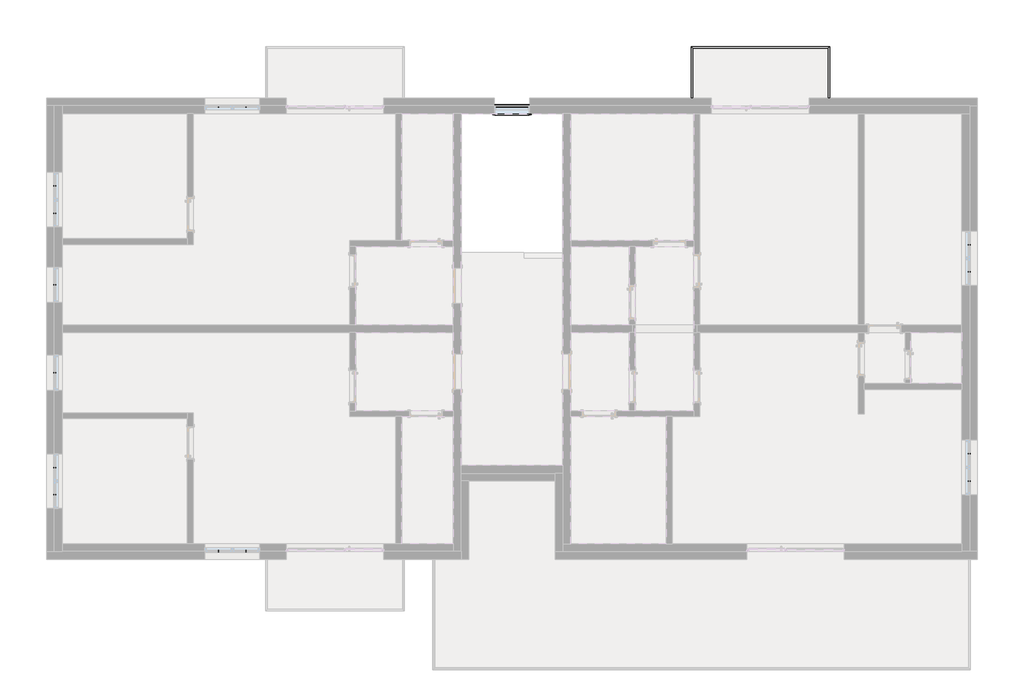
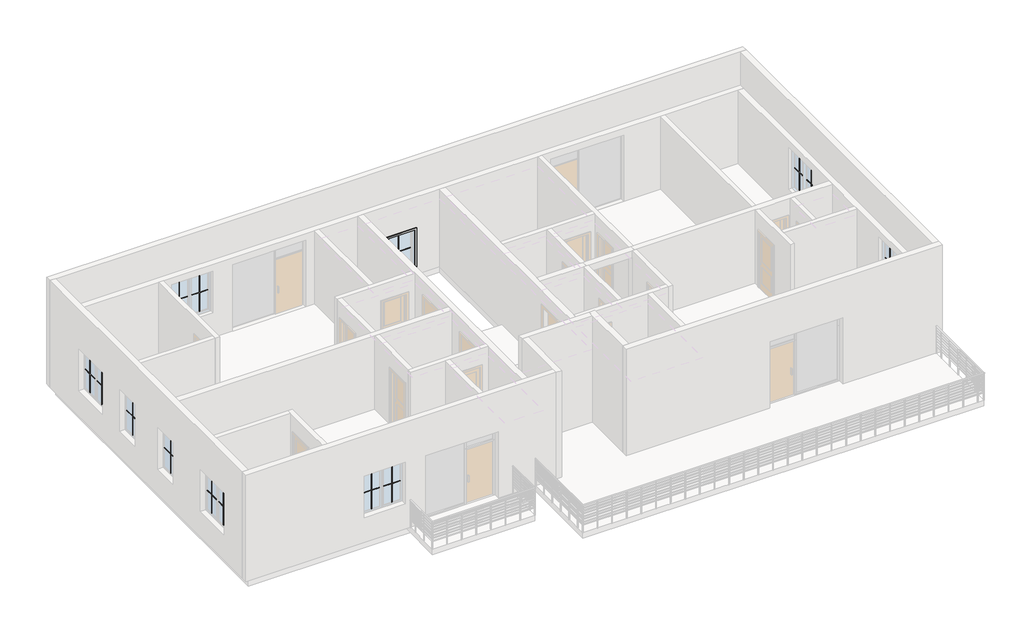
# One storey, part 6 of 6: 17 proxies, 1 railing.
"""IFC4 building model written with IfcOpenShell, lengths in millimetres."""

from ifc_helpers import new_model, si_unit, point, frame, frame_2d, origin, place, context, project, spatial, circle_curve, ellipse_curve, trimmed, segment, composite_curve, outline, extrude, transform, mapped, element, save
from ifc_brep_helpers import plane_surface, cylinder_surface, advanced_brep
from components import generic_models_71f8651e, generic_models_53b518fb, generic_models_94c03e9d, generic_models_07578a54, generic_models_08f28809, generic_models_afe3c14d

model = new_model("IFC4")

# Units and contexts
model_context = context("Model", 3, world=origin())
ifc_project = project(units=[si_unit("LENGTHUNIT", "METRE", prefix="MILLI")], contexts=[model_context])

# Site, building, storey
site = spatial("IfcSite", under=ifc_project)
building = spatial("IfcBuilding", under=site)
storey = spatial("IfcBuildingStorey", under=building, Name="Podlaží 2", Elevation=3000.0)

# Proxies
placement = place(None, origin())
generic_models_shape = generic_models_71f8651e(model_context)
element("IfcBuildingElementProxy", 1, Name="M_Vzor mezilehlého svislého vlysu_2x2 : M_Vzor mezilehlého svislého vlysu_2x2", ObjectType="M_Vzor mezilehlého svislého vlysu_2x2 : M_Vzor mezilehlého svislého vlysu_2x2", at=placement, inside=storey, context=model_context, shape_type="MappedRepresentation", body=[
    mapped(generic_models_shape, transform((4698.4125, 2309.525, 3969.85), x_axis=(-1.0, 0.0, 0.0), y_axis=(0.0, -1.0, 0.0), z_axis=(0.0, 0.0, 1.0))),
])
element("IfcBuildingElementProxy", 2, Name="M_Vzor mezilehlého svislého vlysu_2x2 : M_Vzor mezilehlého svislého vlysu_2x2", ObjectType="M_Vzor mezilehlého svislého vlysu_2x2 : M_Vzor mezilehlého svislého vlysu_2x2", at=placement, inside=storey, context=model_context, shape_type="MappedRepresentation", body=[
    mapped(generic_models_shape, transform((-190.475, 3751.5875, 3969.85), x_axis=(0.0, 1.0, 0.0), y_axis=(-1.0, 0.0, 0.0), z_axis=(0.0, 0.0, 1.0))),
])
element("IfcBuildingElementProxy", 3, Name="M_Vzor mezilehlého svislého vlysu_2x2 : M_Vzor mezilehlého svislého vlysu_2x2", ObjectType="M_Vzor mezilehlého svislého vlysu_2x2 : M_Vzor mezilehlého svislého vlysu_2x2", at=placement, inside=storey, context=model_context, shape_type="MappedRepresentation", body=[
    mapped(generic_models_shape, transform((-190.475, 10951.5875, 3969.85), x_axis=(0.0, 1.0, 0.0), y_axis=(-1.0, 0.0, 0.0), z_axis=(0.0, 0.0, 1.0))),
])
element("IfcBuildingElementProxy", 4, Name="M_Vzor mezilehlého svislého vlysu_2x2 : M_Vzor mezilehlého svislého vlysu_2x2", ObjectType="M_Vzor mezilehlého svislého vlysu_2x2 : M_Vzor mezilehlého svislého vlysu_2x2", at=placement, inside=storey, context=model_context, shape_type="MappedRepresentation", body=[
    mapped(generic_models_shape, transform((4001.5875, 13690.475, 3969.85), x_axis=(1.0, 0.0, 0.0), y_axis=(0.0, 1.0, 0.0), z_axis=(0.0, 0.0, 1.0))),
])
element("IfcBuildingElementProxy", 5, Name="M_Vzor mezilehlého svislého vlysu_2x2 : M_Vzor mezilehlého svislého vlysu_2x2", ObjectType="M_Vzor mezilehlého svislého vlysu_2x2 : M_Vzor mezilehlého svislého vlysu_2x2", at=placement, inside=storey, context=model_context, shape_type="MappedRepresentation", body=[
    mapped(generic_models_shape, transform((23190.475, 10148.4125, 3969.85), x_axis=(0.0, -1.0, 0.0), y_axis=(1.0, 0.0, 0.0), z_axis=(0.0, 0.0, 1.0))),
])
element("IfcBuildingElementProxy", 6, Name="M_Vzor mezilehlého svislého vlysu_2x2 : M_Vzor mezilehlého svislého vlysu_2x2", ObjectType="M_Vzor mezilehlého svislého vlysu_2x2 : M_Vzor mezilehlého svislého vlysu_2x2", at=placement, inside=storey, context=model_context, shape_type="MappedRepresentation", body=[
    mapped(generic_models_shape, transform((23190.475, 4798.4125, 3969.85), x_axis=(0.0, -1.0, 0.0), y_axis=(1.0, 0.0, 0.0), z_axis=(0.0, 0.0, 1.0))),
])
generic_models_2_shape = generic_models_53b518fb(model_context)
element("IfcBuildingElementProxy", 7, Name="M_Vzor mezilehlého svislého vlysu_2x2 : M_Vzor mezilehlého svislého vlysu_2x2", ObjectType="M_Vzor mezilehlého svislého vlysu_2x2 : M_Vzor mezilehlého svislého vlysu_2x2", at=placement, inside=storey, context=model_context, shape_type="MappedRepresentation", body=[
    mapped(generic_models_2_shape, transform((4001.5875, 2309.525, 3969.85), x_axis=(1.0, 0.0, 0.0), y_axis=(0.0, 1.0, 0.0), z_axis=(0.0, 0.0, 1.0))),
])
element("IfcBuildingElementProxy", 8, Name="M_Vzor mezilehlého svislého vlysu_2x2 : M_Vzor mezilehlého svislého vlysu_2x2", ObjectType="M_Vzor mezilehlého svislého vlysu_2x2 : M_Vzor mezilehlého svislého vlysu_2x2", at=placement, inside=storey, context=model_context, shape_type="MappedRepresentation", body=[
    mapped(generic_models_2_shape, transform((-190.475, 4448.4125, 3969.85), x_axis=(0.0, -1.0, 0.0), y_axis=(1.0, 0.0, 0.0), z_axis=(0.0, 0.0, 1.0))),
])
element("IfcBuildingElementProxy", 9, Name="M_Vzor mezilehlého svislého vlysu_2x2 : M_Vzor mezilehlého svislého vlysu_2x2", ObjectType="M_Vzor mezilehlého svislého vlysu_2x2 : M_Vzor mezilehlého svislého vlysu_2x2", at=placement, inside=storey, context=model_context, shape_type="MappedRepresentation", body=[
    mapped(generic_models_2_shape, transform((-190.475, 11648.4125, 3969.85), x_axis=(0.0, -1.0, 0.0), y_axis=(1.0, 0.0, 0.0), z_axis=(0.0, 0.0, 1.0))),
])
element("IfcBuildingElementProxy", 10, Name="M_Vzor mezilehlého svislého vlysu_2x2 : M_Vzor mezilehlého svislého vlysu_2x2", ObjectType="M_Vzor mezilehlého svislého vlysu_2x2 : M_Vzor mezilehlého svislého vlysu_2x2", at=placement, inside=storey, context=model_context, shape_type="MappedRepresentation", body=[
    mapped(generic_models_2_shape, transform((4698.4125, 13690.475, 3969.85), x_axis=(-1.0, 0.0, 0.0), y_axis=(0.0, -1.0, 0.0), z_axis=(0.0, 0.0, 1.0))),
])
element("IfcBuildingElementProxy", 11, Name="M_Vzor mezilehlého svislého vlysu_2x2 : M_Vzor mezilehlého svislého vlysu_2x2", ObjectType="M_Vzor mezilehlého svislého vlysu_2x2 : M_Vzor mezilehlého svislého vlysu_2x2", at=placement, inside=storey, context=model_context, shape_type="MappedRepresentation", body=[
    mapped(generic_models_2_shape, transform((23190.475, 9451.5875, 3969.85), x_axis=(0.0, 1.0, 0.0), y_axis=(-1.0, 0.0, 0.0), z_axis=(0.0, 0.0, 1.0))),
])
element("IfcBuildingElementProxy", 12, Name="M_Vzor mezilehlého svislého vlysu_2x2 : M_Vzor mezilehlého svislého vlysu_2x2", ObjectType="M_Vzor mezilehlého svislého vlysu_2x2 : M_Vzor mezilehlého svislého vlysu_2x2", at=placement, inside=storey, context=model_context, shape_type="MappedRepresentation", body=[
    mapped(generic_models_2_shape, transform((23190.475, 4101.5875, 3969.85), x_axis=(0.0, 1.0, 0.0), y_axis=(-1.0, 0.0, 0.0), z_axis=(0.0, 0.0, 1.0))),
])
generic_models_3_shape = generic_models_94c03e9d(model_context)
element("IfcBuildingElementProxy", 13, Name="M_Obložení, okno, vnější, rovné : s parapetem", ObjectType="M_Obložení, okno, vnější, rovné : s parapetem", at=placement, inside=storey, context=model_context, shape_type="MappedRepresentation", body=[
    mapped(generic_models_3_shape, transform((11500.0, 13700.0, 4500.0), x_axis=(-1.0, 0.0, 0.0), y_axis=(0.0, 0.0, 1.0), z_axis=(0.0, 1.0, 0.0))),
])
generic_models_4_shape = generic_models_07578a54(model_context)
element("IfcBuildingElementProxy", 14, Name="M_Obložení, okno, vnitřní, rovné : Rámeček obrázku", ObjectType="M_Obložení, okno, vnitřní, rovné : Rámeček obrázku", at=placement, inside=storey, context=model_context, shape_type="MappedRepresentation", body=[
    mapped(generic_models_4_shape, transform((11500.0, 13500.0, 4500.0), x_axis=(1.0, 0.0, 0.0), y_axis=(0.0, 0.0, 1.0), z_axis=(0.0, -1.0, 0.0))),
])
generic_models_5_shape = generic_models_08f28809(model_context)
element("IfcBuildingElementProxy", 15, Name="M_Vzor mezilehlého svislého vlysu_2x2 : M_Vzor mezilehlého svislého vlysu_2x2", ObjectType="M_Vzor mezilehlého svislého vlysu_2x2 : M_Vzor mezilehlého svislého vlysu_2x2", at=placement, inside=storey, context=model_context, shape_type="MappedRepresentation", body=[
    mapped(generic_models_5_shape, transform((11500.0, 13690.475, 3038.1), x_axis=(-1.0, 0.0, 0.0), y_axis=(0.0, -1.0, 0.0), z_axis=(0.0, 0.0, 1.0))),
])
generic_models_6_shape = generic_models_afe3c14d(model_context)
element("IfcBuildingElementProxy", 16, Name="M_Vzor mezilehlého svislého vlysu_2x2 : M_Vzor mezilehlého svislého vlysu_2x2", ObjectType="M_Vzor mezilehlého svislého vlysu_2x2 : M_Vzor mezilehlého svislého vlysu_2x2", at=placement, inside=storey, context=model_context, shape_type="MappedRepresentation", body=[
    mapped(generic_models_6_shape, transform((-190.475, 6875.0, 3969.85), x_axis=(0.0, -1.0, 0.0), y_axis=(1.0, 0.0, 0.0), z_axis=(0.0, 0.0, 1.0))),
])
element("IfcBuildingElementProxy", 17, Name="M_Vzor mezilehlého svislého vlysu_2x2 : M_Vzor mezilehlého svislého vlysu_2x2", ObjectType="M_Vzor mezilehlého svislého vlysu_2x2 : M_Vzor mezilehlého svislého vlysu_2x2", at=placement, inside=storey, context=model_context, shape_type="MappedRepresentation", body=[
    mapped(generic_models_6_shape, transform((-190.475, 9125.0, 3969.85), x_axis=(0.0, -1.0, 0.0), y_axis=(1.0, 0.0, 0.0), z_axis=(0.0, 0.0, 1.0))),
])

# Railing
element("IfcRailing", 18, ObjectType="1000 mm trubky", at=placement, inside=storey, context=model_context, shape_type="SolidModel", body=[
    advanced_brep(
    [(19620.0, 13900.0, 3980.0), (19580.0, 13900.0, 3980.0), (19620.0, 15220.0, 3980.0), (19580.0, 15180.0, 3980.0), (16080.0, 15220.0, 3980.0), (16120.0, 15180.0, 3980.0), (16080.0, 13900.0, 3980.0), (16120.0, 13900.0, 3980.0)],
    [
        (0, 1, circle_curve(frame((19600.0, 13900.0, 3980.0), z_axis=(0.0, -1.0, 0.0), x_axis=(-1.0, 0.0, 0.0)), 20.0)),
        (1, 0, circle_curve(frame((19600.0, 13900.0, 3980.0), z_axis=(0.0, -1.0, 0.0), x_axis=(-1.0, 0.0, 0.0)), 20.0)),
        (0, 2),
        (2, 3, ellipse_curve(frame((19600.0, 15200.0, 3980.0), z_axis=(0.7071067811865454, -0.7071067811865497, 0.0), x_axis=(-0.7071067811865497, -0.7071067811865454, 0.0)), 28.2842712, 20.0)),
        (3, 1),
        (3, 2, ellipse_curve(frame((19600.0, 15200.0, 3980.0), z_axis=(0.7071067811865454, -0.7071067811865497, 0.0), x_axis=(-0.7071067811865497, -0.7071067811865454, 0.0)), 28.2842712, 20.0)),
        (2, 4),
        (4, 5, ellipse_curve(frame((16100.0, 15200.0, 3980.0), z_axis=(0.7071067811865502, 0.7071067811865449, 0.0), x_axis=(0.7071067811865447, -0.7071067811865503, 0.0)), 28.2842712, 20.0)),
        (5, 3),
        (5, 4, ellipse_curve(frame((16100.0, 15200.0, 3980.0), z_axis=(0.7071067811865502, 0.7071067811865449, 0.0), x_axis=(0.7071067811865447, -0.7071067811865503, 0.0)), 28.2842712, 20.0)),
        (6, 7, circle_curve(frame((16100.0, 13900.0, 3980.0), z_axis=(0.0, -1.0, 0.0), x_axis=(1.0, 0.0, 0.0)), 20.0)),
        (7, 6, circle_curve(frame((16100.0, 13900.0, 3980.0), z_axis=(0.0, -1.0, 0.0), x_axis=(1.0, 0.0, 0.0)), 20.0)),
        (4, 6),
        (7, 5),
    ],
    [
        plane_surface(frame((19600.0, 13900.0, 4000.0), z_axis=(0.0, -1.0, 0.0), x_axis=(0.0, 0.0, 1.0))),
        cylinder_surface(frame((19600.0, 13900.0, 3980.0), z_axis=(0.0, -1.0, 0.0), x_axis=(-1.0, 0.0, 0.0)), 20.0),
        cylinder_surface(frame((19600.0, 15200.0, 3980.0), z_axis=(1.0, 0.0, 0.0), x_axis=(0.0, -1.0, 0.0)), 20.0),
        plane_surface(frame((16100.0, 13900.0, 4000.0), z_axis=(0.0, -1.0, 0.0), x_axis=(0.0, 0.0, -1.0))),
        cylinder_surface(frame((16100.0, 15200.0, 3980.0), z_axis=(0.0, 1.0, 0.0), x_axis=(1.0, 0.0, 0.0)), 20.0),
    ],
    [
        (0, [[1, 2]]),
        (1, [[-1, 3, 4, 5]]),
        (1, [[-2, -5, 6, -3]]),
        (2, [[-4, 7, 8, 9]]),
        (2, [[-6, -9, 10, -7]]),
        (3, [[11, 12]]),
        (4, [[-8, 13, -12, 14]]),
        (4, [[-10, -14, -11, -13]]),
    ],
),
    advanced_brep(
    [(19585.0, 13900.0, 3885.0), (19615.0, 13900.0, 3885.0), (19585.0, 15185.0, 3885.0), (19615.0, 15215.0, 3885.0), (16115.0, 15185.0, 3885.0), (16085.0, 15215.0, 3885.0), (16115.0, 13900.0, 3885.0), (16085.0, 13900.0, 3885.0)],
    [
        (0, 1, circle_curve(frame((19600.0, 13900.0, 3885.0), z_axis=(0.0, -1.0, 0.0), x_axis=(1.0, 0.0, 0.0)), 15.0)),
        (1, 0, circle_curve(frame((19600.0, 13900.0, 3885.0), z_axis=(0.0, -1.0, 0.0), x_axis=(1.0, 0.0, 0.0)), 15.0)),
        (0, 2),
        (2, 3, ellipse_curve(frame((19600.0, 15200.0, 3885.0), z_axis=(0.7071067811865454, -0.7071067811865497, 0.0), x_axis=(-0.7071067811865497, -0.7071067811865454, 0.0)), 21.2132034, 15.0)),
        (3, 1),
        (3, 2, ellipse_curve(frame((19600.0, 15200.0, 3885.0), z_axis=(0.7071067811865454, -0.7071067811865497, 0.0), x_axis=(-0.7071067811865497, -0.7071067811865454, 0.0)), 21.2132034, 15.0)),
        (2, 4),
        (4, 5, ellipse_curve(frame((16100.0, 15200.0, 3885.0), z_axis=(0.7071067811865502, 0.7071067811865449, 0.0), x_axis=(0.7071067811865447, -0.7071067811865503, 0.0)), 21.2132034, 15.0)),
        (5, 3),
        (5, 4, ellipse_curve(frame((16100.0, 15200.0, 3885.0), z_axis=(0.7071067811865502, 0.7071067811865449, 0.0), x_axis=(0.7071067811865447, -0.7071067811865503, 0.0)), 21.2132034, 15.0)),
        (6, 7, circle_curve(frame((16100.0, 13900.0, 3885.0), z_axis=(0.0, -1.0, 0.0), x_axis=(-1.0, 0.0, 0.0)), 15.0)),
        (7, 6, circle_curve(frame((16100.0, 13900.0, 3885.0), z_axis=(0.0, -1.0, 0.0), x_axis=(-1.0, 0.0, 0.0)), 15.0)),
        (4, 6),
        (7, 5),
    ],
    [
        plane_surface(frame((19600.0, 13900.0, 3900.0), z_axis=(0.0, -1.0, 0.0), x_axis=(0.0, 0.0, 1.0))),
        cylinder_surface(frame((19600.0, 13900.0, 3885.0), z_axis=(0.0, -1.0, 0.0), x_axis=(1.0, 0.0, 0.0)), 15.0),
        cylinder_surface(frame((19600.0, 15200.0, 3885.0), z_axis=(1.0, 0.0, 0.0), x_axis=(0.0, 1.0, 0.0)), 15.0),
        plane_surface(frame((16100.0, 13900.0, 3900.0), z_axis=(0.0, -1.0, 0.0), x_axis=(0.0, 0.0, -1.0))),
        cylinder_surface(frame((16100.0, 15200.0, 3885.0), z_axis=(0.0, 1.0, 0.0), x_axis=(-1.0, 0.0, 0.0)), 15.0),
    ],
    [
        (0, [[1, 2]]),
        (1, [[-1, 3, 4, 5]]),
        (1, [[-2, -5, 6, -3]]),
        (2, [[-4, 7, 8, 9]]),
        (2, [[-6, -9, 10, -7]]),
        (3, [[11, 12]]),
        (4, [[-8, 13, -12, 14]]),
        (4, [[-10, -14, -11, -13]]),
    ],
),
    advanced_brep(
    [(19585.0, 13900.0, 3785.0), (19615.0, 13900.0, 3785.0), (19585.0, 15185.0, 3785.0), (19615.0, 15215.0, 3785.0), (16115.0, 15185.0, 3785.0), (16085.0, 15215.0, 3785.0), (16115.0, 13900.0, 3785.0), (16085.0, 13900.0, 3785.0)],
    [
        (0, 1, circle_curve(frame((19600.0, 13900.0, 3785.0), z_axis=(0.0, -1.0, 0.0), x_axis=(1.0, 0.0, 0.0)), 15.0)),
        (1, 0, circle_curve(frame((19600.0, 13900.0, 3785.0), z_axis=(0.0, -1.0, 0.0), x_axis=(1.0, 0.0, 0.0)), 15.0)),
        (0, 2),
        (2, 3, ellipse_curve(frame((19600.0, 15200.0, 3785.0), z_axis=(0.7071067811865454, -0.7071067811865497, 0.0), x_axis=(-0.7071067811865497, -0.7071067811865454, 0.0)), 21.2132034, 15.0)),
        (3, 1),
        (3, 2, ellipse_curve(frame((19600.0, 15200.0, 3785.0), z_axis=(0.7071067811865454, -0.7071067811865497, 0.0), x_axis=(-0.7071067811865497, -0.7071067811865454, 0.0)), 21.2132034, 15.0)),
        (2, 4),
        (4, 5, ellipse_curve(frame((16100.0, 15200.0, 3785.0), z_axis=(0.7071067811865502, 0.7071067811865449, 0.0), x_axis=(0.7071067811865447, -0.7071067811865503, 0.0)), 21.2132034, 15.0)),
        (5, 3),
        (5, 4, ellipse_curve(frame((16100.0, 15200.0, 3785.0), z_axis=(0.7071067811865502, 0.7071067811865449, 0.0), x_axis=(0.7071067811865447, -0.7071067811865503, 0.0)), 21.2132034, 15.0)),
        (6, 7, circle_curve(frame((16100.0, 13900.0, 3785.0), z_axis=(0.0, -1.0, 0.0), x_axis=(-1.0, 0.0, 0.0)), 15.0)),
        (7, 6, circle_curve(frame((16100.0, 13900.0, 3785.0), z_axis=(0.0, -1.0, 0.0), x_axis=(-1.0, 0.0, 0.0)), 15.0)),
        (4, 6),
        (7, 5),
    ],
    [
        plane_surface(frame((19600.0, 13900.0, 3800.0), z_axis=(0.0, -1.0, 0.0), x_axis=(0.0, 0.0, 1.0))),
        cylinder_surface(frame((19600.0, 13900.0, 3785.0), z_axis=(0.0, -1.0, 0.0), x_axis=(1.0, 0.0, 0.0)), 15.0),
        cylinder_surface(frame((19600.0, 15200.0, 3785.0), z_axis=(1.0, 0.0, 0.0), x_axis=(0.0, 1.0, 0.0)), 15.0),
        plane_surface(frame((16100.0, 13900.0, 3800.0), z_axis=(0.0, -1.0, 0.0), x_axis=(0.0, 0.0, -1.0))),
        cylinder_surface(frame((16100.0, 15200.0, 3785.0), z_axis=(0.0, 1.0, 0.0), x_axis=(-1.0, 0.0, 0.0)), 15.0),
    ],
    [
        (0, [[1, 2]]),
        (1, [[-1, 3, 4, 5]]),
        (1, [[-2, -5, 6, -3]]),
        (2, [[-4, 7, 8, 9]]),
        (2, [[-6, -9, 10, -7]]),
        (3, [[11, 12]]),
        (4, [[-8, 13, -12, 14]]),
        (4, [[-10, -14, -11, -13]]),
    ],
),
    advanced_brep(
    [(19585.0, 13900.0, 3685.0), (19615.0, 13900.0, 3685.0), (19585.0, 15185.0, 3685.0), (19615.0, 15215.0, 3685.0), (16115.0, 15185.0, 3685.0), (16085.0, 15215.0, 3685.0), (16115.0, 13900.0, 3685.0), (16085.0, 13900.0, 3685.0)],
    [
        (0, 1, circle_curve(frame((19600.0, 13900.0, 3685.0), z_axis=(0.0, -1.0, 0.0), x_axis=(1.0, 0.0, 0.0)), 15.0)),
        (1, 0, circle_curve(frame((19600.0, 13900.0, 3685.0), z_axis=(0.0, -1.0, 0.0), x_axis=(1.0, 0.0, 0.0)), 15.0)),
        (0, 2),
        (2, 3, ellipse_curve(frame((19600.0, 15200.0, 3685.0), z_axis=(0.7071067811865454, -0.7071067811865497, 0.0), x_axis=(-0.7071067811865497, -0.7071067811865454, 0.0)), 21.2132034, 15.0)),
        (3, 1),
        (3, 2, ellipse_curve(frame((19600.0, 15200.0, 3685.0), z_axis=(0.7071067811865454, -0.7071067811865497, 0.0), x_axis=(-0.7071067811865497, -0.7071067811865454, 0.0)), 21.2132034, 15.0)),
        (2, 4),
        (4, 5, ellipse_curve(frame((16100.0, 15200.0, 3685.0), z_axis=(0.7071067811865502, 0.7071067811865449, 0.0), x_axis=(0.7071067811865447, -0.7071067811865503, 0.0)), 21.2132034, 15.0)),
        (5, 3),
        (5, 4, ellipse_curve(frame((16100.0, 15200.0, 3685.0), z_axis=(0.7071067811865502, 0.7071067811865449, 0.0), x_axis=(0.7071067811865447, -0.7071067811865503, 0.0)), 21.2132034, 15.0)),
        (6, 7, circle_curve(frame((16100.0, 13900.0, 3685.0), z_axis=(0.0, -1.0, 0.0), x_axis=(-1.0, 0.0, 0.0)), 15.0)),
        (7, 6, circle_curve(frame((16100.0, 13900.0, 3685.0), z_axis=(0.0, -1.0, 0.0), x_axis=(-1.0, 0.0, 0.0)), 15.0)),
        (4, 6),
        (7, 5),
    ],
    [
        plane_surface(frame((19600.0, 13900.0, 3700.0), z_axis=(0.0, -1.0, 0.0), x_axis=(0.0, 0.0, 1.0))),
        cylinder_surface(frame((19600.0, 13900.0, 3685.0), z_axis=(0.0, -1.0, 0.0), x_axis=(1.0, 0.0, 0.0)), 15.0),
        cylinder_surface(frame((19600.0, 15200.0, 3685.0), z_axis=(1.0, 0.0, 0.0), x_axis=(0.0, 1.0, 0.0)), 15.0),
        plane_surface(frame((16100.0, 13900.0, 3700.0), z_axis=(0.0, -1.0, 0.0), x_axis=(0.0, 0.0, -1.0))),
        cylinder_surface(frame((16100.0, 15200.0, 3685.0), z_axis=(0.0, 1.0, 0.0), x_axis=(-1.0, 0.0, 0.0)), 15.0),
    ],
    [
        (0, [[1, 2]]),
        (1, [[-1, 3, 4, 5]]),
        (1, [[-2, -5, 6, -3]]),
        (2, [[-4, 7, 8, 9]]),
        (2, [[-6, -9, 10, -7]]),
        (3, [[11, 12]]),
        (4, [[-8, 13, -12, 14]]),
        (4, [[-10, -14, -11, -13]]),
    ],
),
    advanced_brep(
    [(19585.0, 13900.0, 3585.0), (19615.0, 13900.0, 3585.0), (19585.0, 15185.0, 3585.0), (19615.0, 15215.0, 3585.0), (16115.0, 15185.0, 3585.0), (16085.0, 15215.0, 3585.0), (16115.0, 13900.0, 3585.0), (16085.0, 13900.0, 3585.0)],
    [
        (0, 1, circle_curve(frame((19600.0, 13900.0, 3585.0), z_axis=(0.0, -1.0, 0.0), x_axis=(1.0, 0.0, 0.0)), 15.0)),
        (1, 0, circle_curve(frame((19600.0, 13900.0, 3585.0), z_axis=(0.0, -1.0, 0.0), x_axis=(1.0, 0.0, 0.0)), 15.0)),
        (0, 2),
        (2, 3, ellipse_curve(frame((19600.0, 15200.0, 3585.0), z_axis=(0.7071067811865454, -0.7071067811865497, 0.0), x_axis=(-0.7071067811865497, -0.7071067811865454, 0.0)), 21.2132034, 15.0)),
        (3, 1),
        (3, 2, ellipse_curve(frame((19600.0, 15200.0, 3585.0), z_axis=(0.7071067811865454, -0.7071067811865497, 0.0), x_axis=(-0.7071067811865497, -0.7071067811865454, 0.0)), 21.2132034, 15.0)),
        (2, 4),
        (4, 5, ellipse_curve(frame((16100.0, 15200.0, 3585.0), z_axis=(0.7071067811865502, 0.7071067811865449, 0.0), x_axis=(0.7071067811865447, -0.7071067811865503, 0.0)), 21.2132034, 15.0)),
        (5, 3),
        (5, 4, ellipse_curve(frame((16100.0, 15200.0, 3585.0), z_axis=(0.7071067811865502, 0.7071067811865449, 0.0), x_axis=(0.7071067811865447, -0.7071067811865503, 0.0)), 21.2132034, 15.0)),
        (6, 7, circle_curve(frame((16100.0, 13900.0, 3585.0), z_axis=(0.0, -1.0, 0.0), x_axis=(-1.0, 0.0, 0.0)), 15.0)),
        (7, 6, circle_curve(frame((16100.0, 13900.0, 3585.0), z_axis=(0.0, -1.0, 0.0), x_axis=(-1.0, 0.0, 0.0)), 15.0)),
        (4, 6),
        (7, 5),
    ],
    [
        plane_surface(frame((19600.0, 13900.0, 3600.0), z_axis=(0.0, -1.0, 0.0), x_axis=(0.0, 0.0, 1.0))),
        cylinder_surface(frame((19600.0, 13900.0, 3585.0), z_axis=(0.0, -1.0, 0.0), x_axis=(1.0, 0.0, 0.0)), 15.0),
        cylinder_surface(frame((19600.0, 15200.0, 3585.0), z_axis=(1.0, 0.0, 0.0), x_axis=(0.0, 1.0, 0.0)), 15.0),
        plane_surface(frame((16100.0, 13900.0, 3600.0), z_axis=(0.0, -1.0, 0.0), x_axis=(0.0, 0.0, -1.0))),
        cylinder_surface(frame((16100.0, 15200.0, 3585.0), z_axis=(0.0, 1.0, 0.0), x_axis=(-1.0, 0.0, 0.0)), 15.0),
    ],
    [
        (0, [[1, 2]]),
        (1, [[-1, 3, 4, 5]]),
        (1, [[-2, -5, 6, -3]]),
        (2, [[-4, 7, 8, 9]]),
        (2, [[-6, -9, 10, -7]]),
        (3, [[11, 12]]),
        (4, [[-8, 13, -12, 14]]),
        (4, [[-10, -14, -11, -13]]),
    ],
),
    advanced_brep(
    [(19585.0, 13900.0, 3485.0), (19615.0, 13900.0, 3485.0), (19585.0, 15185.0, 3485.0), (19615.0, 15215.0, 3485.0), (16115.0, 15185.0, 3485.0), (16085.0, 15215.0, 3485.0), (16115.0, 13900.0, 3485.0), (16085.0, 13900.0, 3485.0)],
    [
        (0, 1, circle_curve(frame((19600.0, 13900.0, 3485.0), z_axis=(0.0, -1.0, 0.0), x_axis=(1.0, 0.0, 0.0)), 15.0)),
        (1, 0, circle_curve(frame((19600.0, 13900.0, 3485.0), z_axis=(0.0, -1.0, 0.0), x_axis=(1.0, 0.0, 0.0)), 15.0)),
        (0, 2),
        (2, 3, ellipse_curve(frame((19600.0, 15200.0, 3485.0), z_axis=(0.7071067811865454, -0.7071067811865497, 0.0), x_axis=(-0.7071067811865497, -0.7071067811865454, 0.0)), 21.2132034, 15.0)),
        (3, 1),
        (3, 2, ellipse_curve(frame((19600.0, 15200.0, 3485.0), z_axis=(0.7071067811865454, -0.7071067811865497, 0.0), x_axis=(-0.7071067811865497, -0.7071067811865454, 0.0)), 21.2132034, 15.0)),
        (2, 4),
        (4, 5, ellipse_curve(frame((16100.0, 15200.0, 3485.0), z_axis=(0.7071067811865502, 0.7071067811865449, 0.0), x_axis=(0.7071067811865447, -0.7071067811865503, 0.0)), 21.2132034, 15.0)),
        (5, 3),
        (5, 4, ellipse_curve(frame((16100.0, 15200.0, 3485.0), z_axis=(0.7071067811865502, 0.7071067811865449, 0.0), x_axis=(0.7071067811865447, -0.7071067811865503, 0.0)), 21.2132034, 15.0)),
        (6, 7, circle_curve(frame((16100.0, 13900.0, 3485.0), z_axis=(0.0, -1.0, 0.0), x_axis=(-1.0, 0.0, 0.0)), 15.0)),
        (7, 6, circle_curve(frame((16100.0, 13900.0, 3485.0), z_axis=(0.0, -1.0, 0.0), x_axis=(-1.0, 0.0, 0.0)), 15.0)),
        (4, 6),
        (7, 5),
    ],
    [
        plane_surface(frame((19600.0, 13900.0, 3500.0), z_axis=(0.0, -1.0, 0.0), x_axis=(0.0, 0.0, 1.0))),
        cylinder_surface(frame((19600.0, 13900.0, 3485.0), z_axis=(0.0, -1.0, 0.0), x_axis=(1.0, 0.0, 0.0)), 15.0),
        cylinder_surface(frame((19600.0, 15200.0, 3485.0), z_axis=(1.0, 0.0, 0.0), x_axis=(0.0, 1.0, 0.0)), 15.0),
        plane_surface(frame((16100.0, 13900.0, 3500.0), z_axis=(0.0, -1.0, 0.0), x_axis=(0.0, 0.0, -1.0))),
        cylinder_surface(frame((16100.0, 15200.0, 3485.0), z_axis=(0.0, 1.0, 0.0), x_axis=(-1.0, 0.0, 0.0)), 15.0),
    ],
    [
        (0, [[1, 2]]),
        (1, [[-1, 3, 4, 5]]),
        (1, [[-2, -5, 6, -3]]),
        (2, [[-4, 7, 8, 9]]),
        (2, [[-6, -9, 10, -7]]),
        (3, [[11, 12]]),
        (4, [[-8, 13, -12, 14]]),
        (4, [[-10, -14, -11, -13]]),
    ],
),
    advanced_brep(
    [(19585.0, 13900.0, 3385.0), (19615.0, 13900.0, 3385.0), (19585.0, 15185.0, 3385.0), (19615.0, 15215.0, 3385.0), (16115.0, 15185.0, 3385.0), (16085.0, 15215.0, 3385.0), (16115.0, 13900.0, 3385.0), (16085.0, 13900.0, 3385.0)],
    [
        (0, 1, circle_curve(frame((19600.0, 13900.0, 3385.0), z_axis=(0.0, -1.0, 0.0), x_axis=(1.0, 0.0, 0.0)), 15.0)),
        (1, 0, circle_curve(frame((19600.0, 13900.0, 3385.0), z_axis=(0.0, -1.0, 0.0), x_axis=(1.0, 0.0, 0.0)), 15.0)),
        (0, 2),
        (2, 3, ellipse_curve(frame((19600.0, 15200.0, 3385.0), z_axis=(0.7071067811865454, -0.7071067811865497, 0.0), x_axis=(-0.7071067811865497, -0.7071067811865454, 0.0)), 21.2132034, 15.0)),
        (3, 1),
        (3, 2, ellipse_curve(frame((19600.0, 15200.0, 3385.0), z_axis=(0.7071067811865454, -0.7071067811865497, 0.0), x_axis=(-0.7071067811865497, -0.7071067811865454, 0.0)), 21.2132034, 15.0)),
        (2, 4),
        (4, 5, ellipse_curve(frame((16100.0, 15200.0, 3385.0), z_axis=(0.7071067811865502, 0.7071067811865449, 0.0), x_axis=(0.7071067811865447, -0.7071067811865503, 0.0)), 21.2132034, 15.0)),
        (5, 3),
        (5, 4, ellipse_curve(frame((16100.0, 15200.0, 3385.0), z_axis=(0.7071067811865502, 0.7071067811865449, 0.0), x_axis=(0.7071067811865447, -0.7071067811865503, 0.0)), 21.2132034, 15.0)),
        (6, 7, circle_curve(frame((16100.0, 13900.0, 3385.0), z_axis=(0.0, -1.0, 0.0), x_axis=(-1.0, 0.0, 0.0)), 15.0)),
        (7, 6, circle_curve(frame((16100.0, 13900.0, 3385.0), z_axis=(0.0, -1.0, 0.0), x_axis=(-1.0, 0.0, 0.0)), 15.0)),
        (4, 6),
        (7, 5),
    ],
    [
        plane_surface(frame((19600.0, 13900.0, 3400.0), z_axis=(0.0, -1.0, 0.0), x_axis=(0.0, 0.0, 1.0))),
        cylinder_surface(frame((19600.0, 13900.0, 3385.0), z_axis=(0.0, -1.0, 0.0), x_axis=(1.0, 0.0, 0.0)), 15.0),
        cylinder_surface(frame((19600.0, 15200.0, 3385.0), z_axis=(1.0, 0.0, 0.0), x_axis=(0.0, 1.0, 0.0)), 15.0),
        plane_surface(frame((16100.0, 13900.0, 3400.0), z_axis=(0.0, -1.0, 0.0), x_axis=(0.0, 0.0, -1.0))),
        cylinder_surface(frame((16100.0, 15200.0, 3385.0), z_axis=(0.0, 1.0, 0.0), x_axis=(-1.0, 0.0, 0.0)), 15.0),
    ],
    [
        (0, [[1, 2]]),
        (1, [[-1, 3, 4, 5]]),
        (1, [[-2, -5, 6, -3]]),
        (2, [[-4, 7, 8, 9]]),
        (2, [[-6, -9, 10, -7]]),
        (3, [[11, 12]]),
        (4, [[-8, 13, -12, 14]]),
        (4, [[-10, -14, -11, -13]]),
    ],
),
    advanced_brep(
    [(19585.0, 13900.0, 3285.0), (19615.0, 13900.0, 3285.0), (19585.0, 15185.0, 3285.0), (19615.0, 15215.0, 3285.0), (16115.0, 15185.0, 3285.0), (16085.0, 15215.0, 3285.0), (16115.0, 13900.0, 3285.0), (16085.0, 13900.0, 3285.0)],
    [
        (0, 1, circle_curve(frame((19600.0, 13900.0, 3285.0), z_axis=(0.0, -1.0, 0.0), x_axis=(1.0, 0.0, 0.0)), 15.0)),
        (1, 0, circle_curve(frame((19600.0, 13900.0, 3285.0), z_axis=(0.0, -1.0, 0.0), x_axis=(1.0, 0.0, 0.0)), 15.0)),
        (0, 2),
        (2, 3, ellipse_curve(frame((19600.0, 15200.0, 3285.0), z_axis=(0.7071067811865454, -0.7071067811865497, 0.0), x_axis=(-0.7071067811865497, -0.7071067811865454, 0.0)), 21.2132034, 15.0)),
        (3, 1),
        (3, 2, ellipse_curve(frame((19600.0, 15200.0, 3285.0), z_axis=(0.7071067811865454, -0.7071067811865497, 0.0), x_axis=(-0.7071067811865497, -0.7071067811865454, 0.0)), 21.2132034, 15.0)),
        (2, 4),
        (4, 5, ellipse_curve(frame((16100.0, 15200.0, 3285.0), z_axis=(0.7071067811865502, 0.7071067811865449, 0.0), x_axis=(0.7071067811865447, -0.7071067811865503, 0.0)), 21.2132034, 15.0)),
        (5, 3),
        (5, 4, ellipse_curve(frame((16100.0, 15200.0, 3285.0), z_axis=(0.7071067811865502, 0.7071067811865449, 0.0), x_axis=(0.7071067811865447, -0.7071067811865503, 0.0)), 21.2132034, 15.0)),
        (6, 7, circle_curve(frame((16100.0, 13900.0, 3285.0), z_axis=(0.0, -1.0, 0.0), x_axis=(-1.0, 0.0, 0.0)), 15.0)),
        (7, 6, circle_curve(frame((16100.0, 13900.0, 3285.0), z_axis=(0.0, -1.0, 0.0), x_axis=(-1.0, 0.0, 0.0)), 15.0)),
        (4, 6),
        (7, 5),
    ],
    [
        plane_surface(frame((19600.0, 13900.0, 3300.0), z_axis=(0.0, -1.0, 0.0), x_axis=(0.0, 0.0, 1.0))),
        cylinder_surface(frame((19600.0, 13900.0, 3285.0), z_axis=(0.0, -1.0, 0.0), x_axis=(1.0, 0.0, 0.0)), 15.0),
        cylinder_surface(frame((19600.0, 15200.0, 3285.0), z_axis=(1.0, 0.0, 0.0), x_axis=(0.0, 1.0, 0.0)), 15.0),
        plane_surface(frame((16100.0, 13900.0, 3300.0), z_axis=(0.0, -1.0, 0.0), x_axis=(0.0, 0.0, -1.0))),
        cylinder_surface(frame((16100.0, 15200.0, 3285.0), z_axis=(0.0, 1.0, 0.0), x_axis=(-1.0, 0.0, 0.0)), 15.0),
    ],
    [
        (0, [[1, 2]]),
        (1, [[-1, 3, 4, 5]]),
        (1, [[-2, -5, 6, -3]]),
        (2, [[-4, 7, 8, 9]]),
        (2, [[-6, -9, 10, -7]]),
        (3, [[11, 12]]),
        (4, [[-8, 13, -12, 14]]),
        (4, [[-10, -14, -11, -13]]),
    ],
),
    extrude(outline(composite_curve([segment(trimmed(circle_curve(frame_2d((16100.0, 14200.0)), 12.5), [point((16112.5, 14200.0))], [point((16087.5, 14200.0))], False, "CARTESIAN"), True, "CONTINUOUS"), segment(trimmed(circle_curve(frame_2d((16100.0, 14200.0)), 12.5), [point((16087.5, 14200.0))], [point((16112.5, 14200.0))], False, "CARTESIAN"), True, "CONTINUOUS")], self_intersect=False)), frame((0.0, 0.0, 3000.0), z_axis=(0.0, 0.0, 1.0), x_axis=(1.0, 0.0, 0.0)), (0.0, 0.0, 1.0), 960.0),
    extrude(outline(composite_curve([segment(trimmed(circle_curve(frame_2d((16100.0, 14700.0)), 12.5), [point((16112.5, 14700.0))], [point((16087.5, 14700.0))], False, "CARTESIAN"), True, "CONTINUOUS"), segment(trimmed(circle_curve(frame_2d((16100.0, 14700.0)), 12.5), [point((16087.5, 14700.0))], [point((16112.5, 14700.0))], False, "CARTESIAN"), True, "CONTINUOUS")], self_intersect=False)), frame((0.0, 0.0, 3000.0), z_axis=(0.0, 0.0, 1.0), x_axis=(1.0, 0.0, 0.0)), (0.0, 0.0, 1.0), 960.0),
    extrude(outline(composite_curve([segment(trimmed(circle_curve(frame_2d((16600.0, 15200.0)), 12.5), [point((16600.0, 15187.5))], [point((16600.0, 15212.5))], False, "CARTESIAN"), True, "CONTINUOUS"), segment(trimmed(circle_curve(frame_2d((16600.0, 15200.0)), 12.5), [point((16600.0, 15212.5))], [point((16600.0, 15187.5))], False, "CARTESIAN"), True, "CONTINUOUS")], self_intersect=False)), frame((0.0, 0.0, 3000.0), z_axis=(0.0, 0.0, 1.0), x_axis=(1.0, 0.0, 0.0)), (0.0, 0.0, 1.0), 960.0),
    extrude(outline(composite_curve([segment(trimmed(circle_curve(frame_2d((17100.0, 15200.0)), 12.5), [point((17100.0, 15187.5))], [point((17100.0, 15212.5))], False, "CARTESIAN"), True, "CONTINUOUS"), segment(trimmed(circle_curve(frame_2d((17100.0, 15200.0)), 12.5), [point((17100.0, 15212.5))], [point((17100.0, 15187.5))], False, "CARTESIAN"), True, "CONTINUOUS")], self_intersect=False)), frame((0.0, 0.0, 3000.0), z_axis=(0.0, 0.0, 1.0), x_axis=(1.0, 0.0, 0.0)), (0.0, 0.0, 1.0), 960.0),
    extrude(outline(composite_curve([segment(trimmed(circle_curve(frame_2d((17600.0, 15200.0)), 12.5), [point((17600.0, 15187.5))], [point((17600.0, 15212.5))], False, "CARTESIAN"), True, "CONTINUOUS"), segment(trimmed(circle_curve(frame_2d((17600.0, 15200.0)), 12.5), [point((17600.0, 15212.5))], [point((17600.0, 15187.5))], False, "CARTESIAN"), True, "CONTINUOUS")], self_intersect=False)), frame((0.0, 0.0, 3000.0), z_axis=(0.0, 0.0, 1.0), x_axis=(1.0, 0.0, 0.0)), (0.0, 0.0, 1.0), 960.0),
    extrude(outline(composite_curve([segment(trimmed(circle_curve(frame_2d((18100.0, 15200.0)), 12.5), [point((18100.0, 15187.5))], [point((18100.0, 15212.5))], False, "CARTESIAN"), True, "CONTINUOUS"), segment(trimmed(circle_curve(frame_2d((18100.0, 15200.0)), 12.5), [point((18100.0, 15212.5))], [point((18100.0, 15187.5))], False, "CARTESIAN"), True, "CONTINUOUS")], self_intersect=False)), frame((0.0, 0.0, 3000.0), z_axis=(0.0, 0.0, 1.0), x_axis=(1.0, 0.0, 0.0)), (0.0, 0.0, 1.0), 960.0),
    extrude(outline(composite_curve([segment(trimmed(circle_curve(frame_2d((18600.0, 15200.0)), 12.5), [point((18600.0, 15187.5))], [point((18600.0, 15212.5))], False, "CARTESIAN"), True, "CONTINUOUS"), segment(trimmed(circle_curve(frame_2d((18600.0, 15200.0)), 12.5), [point((18600.0, 15212.5))], [point((18600.0, 15187.5))], False, "CARTESIAN"), True, "CONTINUOUS")], self_intersect=False)), frame((0.0, 0.0, 3000.0), z_axis=(0.0, 0.0, 1.0), x_axis=(1.0, 0.0, 0.0)), (0.0, 0.0, 1.0), 960.0),
    extrude(outline(composite_curve([segment(trimmed(circle_curve(frame_2d((19100.0, 15200.0)), 12.5), [point((19100.0, 15187.5))], [point((19100.0, 15212.5))], False, "CARTESIAN"), True, "CONTINUOUS"), segment(trimmed(circle_curve(frame_2d((19100.0, 15200.0)), 12.5), [point((19100.0, 15212.5))], [point((19100.0, 15187.5))], False, "CARTESIAN"), True, "CONTINUOUS")], self_intersect=False)), frame((0.0, 0.0, 3000.0), z_axis=(0.0, 0.0, 1.0), x_axis=(1.0, 0.0, 0.0)), (0.0, 0.0, 1.0), 960.0),
    extrude(outline(composite_curve([segment(trimmed(circle_curve(frame_2d((19600.0, 14900.0)), 12.5), [point((19587.5, 14900.0))], [point((19612.5, 14900.0))], False, "CARTESIAN"), True, "CONTINUOUS"), segment(trimmed(circle_curve(frame_2d((19600.0, 14900.0)), 12.5), [point((19612.5, 14900.0))], [point((19587.5, 14900.0))], False, "CARTESIAN"), True, "CONTINUOUS")], self_intersect=False)), frame((0.0, 0.0, 3000.0), z_axis=(0.0, 0.0, 1.0), x_axis=(1.0, 0.0, 0.0)), (0.0, 0.0, 1.0), 960.0),
    extrude(outline(composite_curve([segment(trimmed(circle_curve(frame_2d((19600.0, 14400.0)), 12.5), [point((19587.5, 14400.0))], [point((19612.5, 14400.0))], False, "CARTESIAN"), True, "CONTINUOUS"), segment(trimmed(circle_curve(frame_2d((19600.0, 14400.0)), 12.5), [point((19612.5, 14400.0))], [point((19587.5, 14400.0))], False, "CARTESIAN"), True, "CONTINUOUS")], self_intersect=False)), frame((0.0, 0.0, 3000.0), z_axis=(0.0, 0.0, 1.0), x_axis=(1.0, 0.0, 0.0)), (0.0, 0.0, 1.0), 960.0),
    extrude(outline(composite_curve([segment(trimmed(circle_curve(frame_2d((16100.0, 15200.0)), 12.5), [point((16100.0, 15187.5))], [point((16100.0, 15212.5))], False, "CARTESIAN"), True, "CONTINUOUS"), segment(trimmed(circle_curve(frame_2d((16100.0, 15200.0)), 12.5), [point((16100.0, 15212.5))], [point((16100.0, 15187.5))], False, "CARTESIAN"), True, "CONTINUOUS")], self_intersect=False)), frame((0.0, 0.0, 3000.0), z_axis=(0.0, 0.0, 1.0), x_axis=(1.0, 0.0, 0.0)), (0.0, 0.0, 1.0), 960.0),
    extrude(outline(composite_curve([segment(trimmed(circle_curve(frame_2d((19600.0, 15200.0)), 12.5), [point((19587.5, 15200.0))], [point((19612.5, 15200.0))], False, "CARTESIAN"), True, "CONTINUOUS"), segment(trimmed(circle_curve(frame_2d((19600.0, 15200.0)), 12.5), [point((19612.5, 15200.0))], [point((19587.5, 15200.0))], False, "CARTESIAN"), True, "CONTINUOUS")], self_intersect=False)), frame((0.0, 0.0, 3000.0), z_axis=(0.0, 0.0, 1.0), x_axis=(1.0, 0.0, 0.0)), (0.0, 0.0, 1.0), 960.0),
    extrude(outline(composite_curve([segment(trimmed(circle_curve(frame_2d((16100.0, 13912.5)), 12.5), [point((16112.5, 13912.5))], [point((16087.5, 13912.5))], False, "CARTESIAN"), True, "CONTINUOUS"), segment(trimmed(circle_curve(frame_2d((16100.0, 13912.5)), 12.5), [point((16087.5, 13912.5))], [point((16112.5, 13912.5))], False, "CARTESIAN"), True, "CONTINUOUS")], self_intersect=False)), frame((0.0, 0.0, 3000.0), z_axis=(0.0, 0.0, 1.0), x_axis=(1.0, 0.0, 0.0)), (0.0, 0.0, 1.0), 960.0),
    extrude(outline(composite_curve([segment(trimmed(circle_curve(frame_2d((19600.0, 13912.5)), 12.5), [point((19587.5, 13912.5))], [point((19612.5, 13912.5))], False, "CARTESIAN"), True, "CONTINUOUS"), segment(trimmed(circle_curve(frame_2d((19600.0, 13912.5)), 12.5), [point((19612.5, 13912.5))], [point((19587.5, 13912.5))], False, "CARTESIAN"), True, "CONTINUOUS")], self_intersect=False)), frame((0.0, 0.0, 3000.0), z_axis=(0.0, 0.0, 1.0), x_axis=(1.0, 0.0, 0.0)), (0.0, 0.0, 1.0), 960.0),
])

save(model, "model.ifc")
